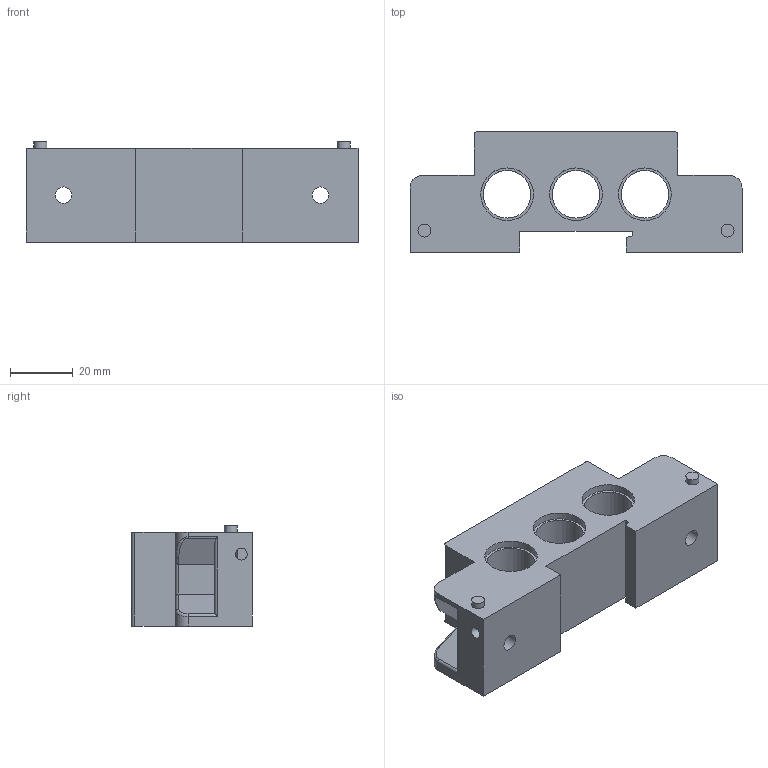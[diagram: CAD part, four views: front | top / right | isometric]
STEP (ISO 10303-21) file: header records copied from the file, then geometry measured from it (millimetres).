
FILE_DESCRIPTION(/* description */ ('BASE MODULARE COMPL.x (TECNO-ECO) G1/4"'),/* implementation_level */ '2;1');
FILE_NAME(/* name */ 'I:\Area Tecnica\Disegni\VARIE-3D\Componenti\T400\T424\T424_01.stp',/* time_stamp */ '2015-09-23T13:44:43+02:00',/* author */ ('maniean1'),/* organization */ ('Pneumax S.p.A.'),/* preprocessor_version */ 'ST-DEVELOPER v15.2',/* originating_system */ 'Autodesk Inventor 2014',/* authorisation */ '');
FILE_SCHEMA (('AUTOMOTIVE_DESIGN { 1 0 10303 214 3 1 1 }'));
Length unit declared in the file: millimetre
Products named in the file (1): T424_01
Bounding box: 106 x 38.5 x 32 mm (x, y, z)
Volume: 71485.4 mm3; surface area: 21616.3 mm2
Topology: 1 solids, 1 shells, 93 faces, 215 edges, 139 vertices
Faces by surface type: cylinder 46, plane 43, bspline 4
Full cylindrical faces by diameter (mm): 3.8 x1, 4.15 x4, 4.25 x3, 5.25 x2, 8.5 x3, 8.75 x2, 15.2 x3, 16.8 x6
Entity records: 2769 total; most frequent: CARTESIAN_POINT 642, DIRECTION 450, ORIENTED_EDGE 376, EDGE_CURVE 188, AXIS2_PLACEMENT_3D 175, EDGE_LOOP 150, VERTEX_POINT 136, LINE 100
